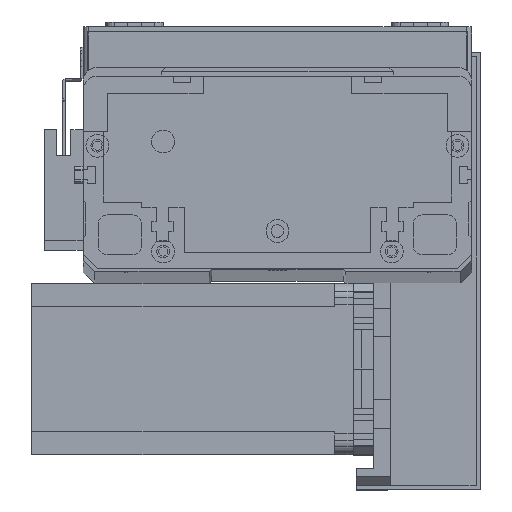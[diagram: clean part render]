
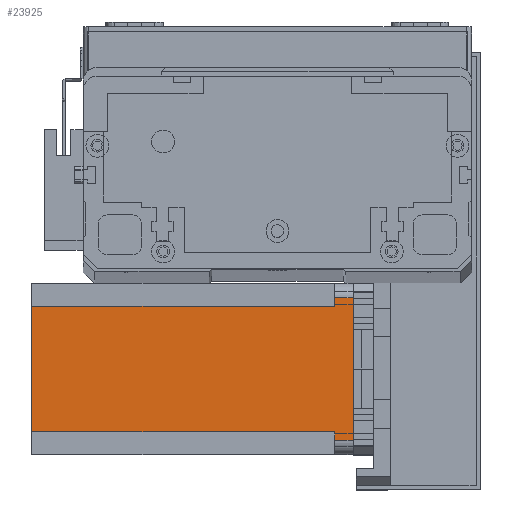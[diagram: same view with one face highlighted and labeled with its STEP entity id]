
A CAD part, top view. The second image highlights one B-rep face of the part: STEP entity #23925.
In plain terms, the highlighted planar face has unit normal (0, 0, 1) as drawn and (0, -1, 0) by its records, which use the part's own axes.
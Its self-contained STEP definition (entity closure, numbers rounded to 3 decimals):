
#887 = LINE ( 'NONE', #28537, #18400 ) ;
#915 = EDGE_CURVE ( 'NONE', #14739, #5259, #9151, .T. ) ;
#1971 = EDGE_CURVE ( 'NONE', #23862, #14739, #16509, .T. ) ;
#2170 = CARTESIAN_POINT ( 'NONE',  ( 8., 0., -6.5 ) ) ;
#3314 = VERTEX_POINT ( 'NONE', #23046 ) ;
#3592 = DIRECTION ( 'NONE',  ( 0., 0., -1. ) ) ;
#3652 = EDGE_CURVE ( 'NONE', #14799, #3314, #28308, .T. ) ;
#3832 = LINE ( 'NONE', #6013, #22687 ) ;
#3942 = ORIENTED_EDGE ( 'NONE', *, *, #17112, .F. ) ;
#4076 = DIRECTION ( 'NONE',  ( -1., 0., 0. ) ) ;
#4119 = VECTOR ( 'NONE', #16422, 1000. ) ;
#4430 = VECTOR ( 'NONE', #28747, 1000. ) ;
#4614 = LINE ( 'NONE', #12181, #16527 ) ;
#4825 = EDGE_CURVE ( 'NONE', #23862, #4852, #17096, .T. ) ;
#4852 = VERTEX_POINT ( 'NONE', #24051 ) ;
#5259 = VERTEX_POINT ( 'NONE', #11940 ) ;
#6013 = CARTESIAN_POINT ( 'NONE',  ( 0., 0., 0. ) ) ;
#6516 = CARTESIAN_POINT ( 'NONE',  ( 52., 0., -6.5 ) ) ;
#6558 = VERTEX_POINT ( 'NONE', #14604 ) ;
#7060 = ORIENTED_EDGE ( 'NONE', *, *, #1971, .F. ) ;
#7763 = DIRECTION ( 'NONE',  ( 0., -1., 0. ) ) ;
#9151 = LINE ( 'NONE', #2170, #26985 ) ;
#9398 = EDGE_LOOP ( 'NONE', ( #28288, #27462, #21437, #13541, #24766, #7060, #17306, #3942 ) ) ;
#9713 = CARTESIAN_POINT ( 'NONE',  ( 8., 0., -112.5 ) ) ;
#9966 = FACE_OUTER_BOUND ( 'NONE', #9398, .T. ) ;
#10277 = VECTOR ( 'NONE', #10366, 1000. ) ;
#10366 = DIRECTION ( 'NONE',  ( 0., 0., 1. ) ) ;
#11650 = VERTEX_POINT ( 'NONE', #12385 ) ;
#11940 = CARTESIAN_POINT ( 'NONE',  ( 5., 0., -6.5 ) ) ;
#12181 = CARTESIAN_POINT ( 'NONE',  ( 55., 0., -112.5 ) ) ;
#12354 = EDGE_CURVE ( 'NONE', #6558, #11650, #3832, .T. ) ;
#12385 = CARTESIAN_POINT ( 'NONE',  ( 55., 0., 0. ) ) ;
#12563 = CARTESIAN_POINT ( 'NONE',  ( 0., 0., -112.5 ) ) ;
#13541 = ORIENTED_EDGE ( 'NONE', *, *, #28638, .T. ) ;
#14540 = DIRECTION ( 'NONE',  ( 0., 0., 1. ) ) ;
#14604 = CARTESIAN_POINT ( 'NONE',  ( 5., 0., 0. ) ) ;
#14715 = DIRECTION ( 'NONE',  ( 0., 0., -1. ) ) ;
#14739 = VERTEX_POINT ( 'NONE', #27251 ) ;
#14799 = VERTEX_POINT ( 'NONE', #6516 ) ;
#16422 = DIRECTION ( 'NONE',  ( 1., 0., 0. ) ) ;
#16509 = LINE ( 'NONE', #9713, #10277 ) ;
#16527 = VECTOR ( 'NONE', #14540, 1000. ) ;
#17096 = LINE ( 'NONE', #12563, #4430 ) ;
#17112 = EDGE_CURVE ( 'NONE', #14799, #4852, #887, .T. ) ;
#17185 = PLANE ( 'NONE',  #26148 ) ;
#17306 = ORIENTED_EDGE ( 'NONE', *, *, #4825, .T. ) ;
#18175 = CARTESIAN_POINT ( 'NONE',  ( 52., 0., -6.5 ) ) ;
#18400 = VECTOR ( 'NONE', #14715, 1000. ) ;
#20883 = LINE ( 'NONE', #26982, #26977 ) ;
#21437 = ORIENTED_EDGE ( 'NONE', *, *, #12354, .F. ) ;
#21861 = CARTESIAN_POINT ( 'NONE',  ( 0., 0., -112.5 ) ) ;
#22687 = VECTOR ( 'NONE', #27070, 1000. ) ;
#23046 = CARTESIAN_POINT ( 'NONE',  ( 55., 0., -6.5 ) ) ;
#23862 = VERTEX_POINT ( 'NONE', #26177 ) ;
#23925 = ADVANCED_FACE ( 'NONE', ( #9966 ), #17185, .T. ) ;
#24051 = CARTESIAN_POINT ( 'NONE',  ( 52., 0., -112.5 ) ) ;
#24150 = DIRECTION ( 'NONE',  ( 0., 0., -1. ) ) ;
#24766 = ORIENTED_EDGE ( 'NONE', *, *, #915, .F. ) ;
#26148 = AXIS2_PLACEMENT_3D ( 'NONE', #21861, #7763, #24150 ) ;
#26177 = CARTESIAN_POINT ( 'NONE',  ( 8., 0., -112.5 ) ) ;
#26977 = VECTOR ( 'NONE', #3592, 1000. ) ;
#26982 = CARTESIAN_POINT ( 'NONE',  ( 5., 0., -112.5 ) ) ;
#26985 = VECTOR ( 'NONE', #4076, 1000. ) ;
#27070 = DIRECTION ( 'NONE',  ( 1., 0., 0. ) ) ;
#27251 = CARTESIAN_POINT ( 'NONE',  ( 8., 0., -6.5 ) ) ;
#27462 = ORIENTED_EDGE ( 'NONE', *, *, #28998, .T. ) ;
#28288 = ORIENTED_EDGE ( 'NONE', *, *, #3652, .T. ) ;
#28308 = LINE ( 'NONE', #18175, #4119 ) ;
#28537 = CARTESIAN_POINT ( 'NONE',  ( 52., 0., -112.5 ) ) ;
#28638 = EDGE_CURVE ( 'NONE', #6558, #5259, #20883, .T. ) ;
#28747 = DIRECTION ( 'NONE',  ( 1., 0., 0. ) ) ;
#28998 = EDGE_CURVE ( 'NONE', #3314, #11650, #4614, .T. ) ;
